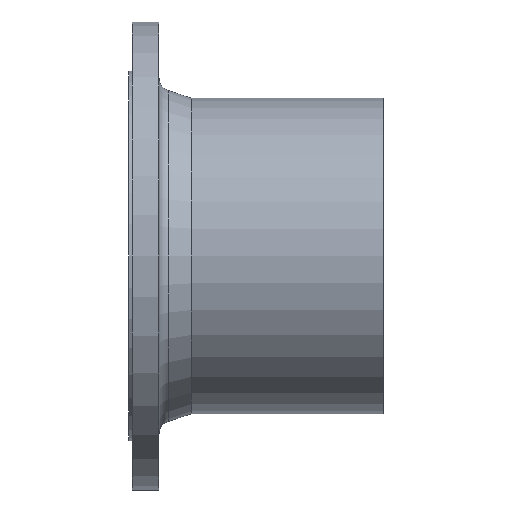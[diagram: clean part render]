
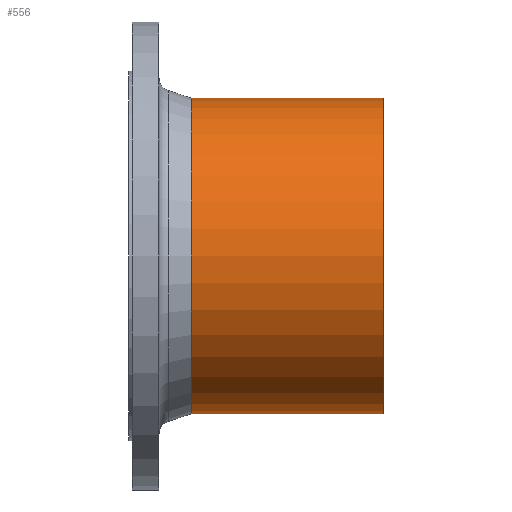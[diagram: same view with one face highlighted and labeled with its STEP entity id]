
A CAD part, front view. The second image highlights one B-rep face of the part: STEP entity #556.
In plain terms, the highlighted cylindrical face has radius 136.5 mm (diameter 273 mm), a full revolution.
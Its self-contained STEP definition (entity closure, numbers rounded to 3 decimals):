
#73=FACE_OUTER_BOUND('',#125,.T.);
#125=EDGE_LOOP('',(#508,#509,#510,#511,#512,#513));
#145=LINE('',#1010,#163);
#163=VECTOR('',#847,136.5);
#208=CIRCLE('',#637,136.5);
#209=CIRCLE('',#638,136.5);
#222=CIRCLE('',#659,136.5);
#223=CIRCLE('',#660,136.5);
#267=VERTEX_POINT('',#965);
#268=VERTEX_POINT('',#966);
#281=VERTEX_POINT('',#1006);
#282=VERTEX_POINT('',#1007);
#339=EDGE_CURVE('',#267,#268,#208,.T.);
#340=EDGE_CURVE('',#268,#267,#209,.T.);
#358=EDGE_CURVE('',#281,#282,#222,.T.);
#359=EDGE_CURVE('',#282,#281,#223,.T.);
#360=EDGE_CURVE('',#282,#268,#145,.T.);
#508=ORIENTED_EDGE('',*,*,#358,.F.);
#509=ORIENTED_EDGE('',*,*,#359,.F.);
#510=ORIENTED_EDGE('',*,*,#360,.T.);
#511=ORIENTED_EDGE('',*,*,#340,.T.);
#512=ORIENTED_EDGE('',*,*,#339,.T.);
#513=ORIENTED_EDGE('',*,*,#360,.F.);
#533=CYLINDRICAL_SURFACE('',#658,136.5);
#556=ADVANCED_FACE('',(#73),#533,.T.);
#637=AXIS2_PLACEMENT_3D('',#967,#794,#795);
#638=AXIS2_PLACEMENT_3D('',#968,#796,#797);
#658=AXIS2_PLACEMENT_3D('',#1005,#841,#842);
#659=AXIS2_PLACEMENT_3D('',#1008,#843,#844);
#660=AXIS2_PLACEMENT_3D('',#1009,#845,#846);
#794=DIRECTION('center_axis',(1.,0.,0.));
#795=DIRECTION('ref_axis',(0.,0.,-1.));
#796=DIRECTION('center_axis',(1.,0.,0.));
#797=DIRECTION('ref_axis',(0.,0.,-1.));
#841=DIRECTION('center_axis',(1.,0.,0.));
#842=DIRECTION('ref_axis',(0.,1.,0.));
#843=DIRECTION('center_axis',(1.,0.,0.));
#844=DIRECTION('ref_axis',(0.,1.,0.));
#845=DIRECTION('center_axis',(1.,0.,0.));
#846=DIRECTION('ref_axis',(0.,1.,0.));
#847=DIRECTION('',(-1.,0.,0.));
#965=CARTESIAN_POINT('',(-16.,136.5,0.));
#966=CARTESIAN_POINT('',(-16.,-136.5,0.));
#967=CARTESIAN_POINT('Origin',(-16.,0.,0.));
#968=CARTESIAN_POINT('Origin',(-16.,0.,0.));
#1005=CARTESIAN_POINT('Origin',(0.,0.,0.));
#1006=CARTESIAN_POINT('',(150.,136.5,0.));
#1007=CARTESIAN_POINT('',(150.,-136.5,0.));
#1008=CARTESIAN_POINT('Origin',(150.,0.,0.));
#1009=CARTESIAN_POINT('Origin',(150.,0.,0.));
#1010=CARTESIAN_POINT('',(0.,-136.5,0.));
